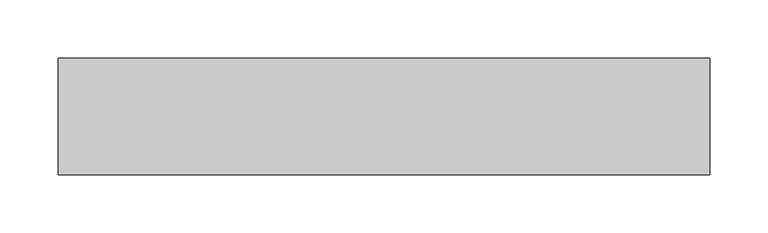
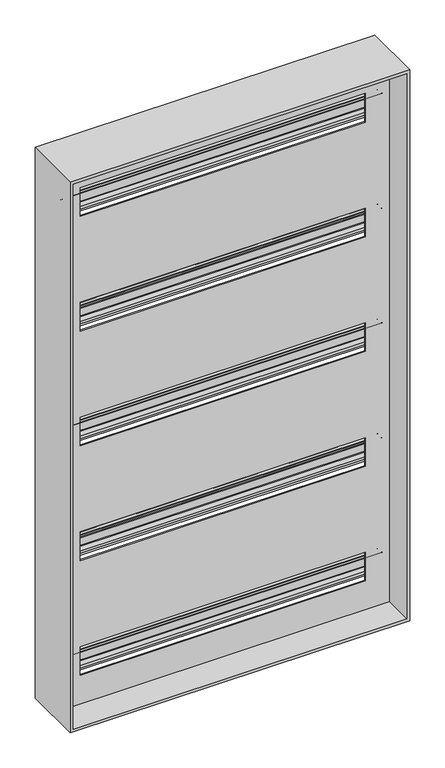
"""IFC4 building model written with IfcOpenShell, lengths in millimetres: electric distribution board geometry, DKC_Панель для модульного оборудования : DKC_Панель для модульного оборудования."""

from ifc_helpers import new_model, si_unit, frame, origin, place, context, project, spatial, polyline, circle_curve, faceted_brep, source, transform, mapped, element, save
from ifc_brep_helpers import plane_surface, cylinder_surface, revolved_surface, advanced_brep


def electric_distribution_board_fee3de22(model_context):
    return source(origin(), model_context, "Body", "SolidModel", [
        advanced_brep(
        [(-265.0, -86.5000007, 1912.0000024), (-265.0, -96.4963965, 1912.0000024), (-265.0, -98.9999996, 1914.4999998), (-265.0, -99.0, 1917.4999982), (-265.0, -97.5000007, 1917.4999982), (-265.0, -97.5000007, 1914.5), (-265.0, -96.4999987, 1913.4999998), (-265.0, -86.4969876, 1913.499998), (-265.0, -83.9999996, 1910.9999998), (-265.0, -83.9999996, 1888.9999994), (-265.0, -86.5039195, 1886.5000024), (-265.0, -96.4999996, 1886.5000024), (-265.0, -97.4999996, 1885.5000004), (-265.0, -97.5000007, 1882.5000018), (-265.0, -99.0, 1882.5000018), (-265.0, -99.0, 1885.4999994), (-265.0, -96.4974135, 1887.999998), (-265.0, -86.4999996, 1887.999998), (-265.0, -85.4999996, 1889.0000001), (-265.0, -85.4999987, 1910.9999998), (265.0, -86.5000007, 1911.9999998), (265.0, -85.4999996, 1910.9999998), (265.0, -85.4999987, 1889.0000001), (265.0, -86.4999996, 1887.9999994), (265.0, -96.4974135, 1887.999998), (265.0, -98.9999996, 1885.4999994), (265.0, -99.0, 1882.5000018), (265.0, -97.5000007, 1882.5000018), (265.0, -97.5000007, 1885.5000004), (265.0, -96.4999996, 1886.4999994), (265.0, -86.5039195, 1886.5000024), (265.0, -83.9999996, 1888.9999994), (265.0, -83.9999996, 1910.9999998), (265.0, -86.4969876, 1913.499998), (265.0, -96.4999987, 1913.499998), (265.0, -97.4999996, 1914.4999998), (265.0, -97.5000007, 1917.4999982), (265.0, -99.0, 1917.4999982), (265.0, -99.0, 1914.4999998), (265.0, -96.4963965, 1912.0000024)],
        [
            (0, 1),
            (1, 2, circle_curve(frame((-265.0, -96.4999996, 1914.4999998), z_axis=(-1.0, 0.0, 0.0), x_axis=(0.0, 0.0, -1.0)), 2.5)),
            (2, 3),
            (3, 4),
            (4, 5),
            (5, 6, circle_curve(frame((-265.0, -96.4999996, 1914.4999998), z_axis=(1.0, 0.0, 0.0), x_axis=(0.0, 0.0, -1.0)), 1.0)),
            (6, 7),
            (7, 8, circle_curve(frame((-265.0, -86.4999996, 1910.9999998), z_axis=(-1.0, 0.0, 0.0), x_axis=(0.0, 0.0, -1.0)), 2.5)),
            (8, 9),
            (9, 10, circle_curve(frame((-265.0, -86.4999996, 1888.9999994), z_axis=(-1.0, 0.0, 0.0), x_axis=(0.0, 0.0, -1.0)), 2.5)),
            (10, 11),
            (11, 12, circle_curve(frame((-265.0, -96.4999996, 1885.4999994), z_axis=(1.0, 0.0, 0.0), x_axis=(0.0, 0.0, -1.0)), 1.0)),
            (12, 13),
            (13, 14),
            (14, 15),
            (15, 16, circle_curve(frame((-265.0, -96.4999996, 1885.4999994), z_axis=(-1.0, 0.0, 0.0), x_axis=(0.0, 0.0, -1.0)), 2.5)),
            (16, 17),
            (17, 18, circle_curve(frame((-265.0, -86.4999996, 1888.9999994), z_axis=(1.0, 0.0, 0.0), x_axis=(0.0, 0.0, -1.0)), 1.0)),
            (18, 19),
            (19, 0, circle_curve(frame((-265.0, -86.4999996, 1910.9999998), z_axis=(1.0, 0.0, 0.0), x_axis=(0.0, 0.0, -1.0)), 1.0)),
            (20, 21, circle_curve(frame((265.0, -86.4999996, 1910.9999998), z_axis=(-1.0, 0.0, 0.0), x_axis=(0.0, 0.0, -1.0)), 1.0)),
            (21, 22),
            (22, 23, circle_curve(frame((265.0, -86.4999996, 1888.9999994), z_axis=(-1.0, 0.0, 0.0), x_axis=(0.0, 0.0, -1.0)), 1.0)),
            (23, 24),
            (24, 25, circle_curve(frame((265.0, -96.4999996, 1885.4999994), z_axis=(1.0, 0.0, 0.0), x_axis=(0.0, 0.0, -1.0)), 2.5)),
            (25, 26),
            (26, 27),
            (27, 28),
            (28, 29, circle_curve(frame((265.0, -96.4999996, 1885.4999994), z_axis=(-1.0, 0.0, 0.0), x_axis=(0.0, 0.0, -1.0)), 1.0)),
            (29, 30),
            (30, 31, circle_curve(frame((265.0, -86.4999996, 1888.9999994), z_axis=(1.0, 0.0, 0.0), x_axis=(0.0, 0.0, -1.0)), 2.5)),
            (31, 32),
            (32, 33, circle_curve(frame((265.0, -86.4999996, 1910.9999998), z_axis=(1.0, 0.0, 0.0), x_axis=(0.0, 0.0, -1.0)), 2.5)),
            (33, 34),
            (34, 35, circle_curve(frame((265.0, -96.4999996, 1914.4999998), z_axis=(-1.0, 0.0, 0.0), x_axis=(0.0, 0.0, -1.0)), 1.0)),
            (35, 36),
            (36, 37),
            (37, 38),
            (38, 39, circle_curve(frame((265.0, -96.4999996, 1914.4999998), z_axis=(1.0, 0.0, 0.0), x_axis=(0.0, 0.0, -1.0)), 2.5)),
            (39, 20),
            (0, 20),
            (39, 1),
            (38, 2),
            (37, 3),
            (36, 4),
            (35, 5),
            (34, 6),
            (33, 7),
            (32, 8),
            (31, 9),
            (30, 10),
            (29, 11),
            (28, 12),
            (27, 13),
            (26, 14),
            (25, 15),
            (24, 16),
            (23, 17),
            (22, 18),
            (21, 19),
        ],
        [
            plane_surface(frame((-265.0, -96.4963965, 1912.0000024), z_axis=(-1.0, 0.0, 0.0), x_axis=(0.0, -1.0, 0.0))),
            plane_surface(frame((265.0, -96.4963965, 1912.0000024), z_axis=(1.0, 0.0, 0.0), x_axis=(0.0, 1.0, 0.0))),
            plane_surface(frame((-265.0, -86.5000007, 1912.0000024), z_axis=(0.0, 0.0, -1.0), x_axis=(1.0, 0.0, 0.0))),
            cylinder_surface(frame((265.0, -96.4999996, 1914.4999998), z_axis=(-1.0, 0.0, 0.0), x_axis=(0.0, 0.0, -1.0)), 2.5),
            plane_surface(frame((-265.0, -99.0, 1914.4999998), z_axis=(0.0, -1.0, 0.0), x_axis=(1.0, 0.0, 0.0))),
            plane_surface(frame((-265.0, -99.0, 1917.4999982), z_axis=(0.0, 0.0, 1.0), x_axis=(1.0, 0.0, 0.0))),
            plane_surface(frame((-265.0, -97.5000007, 1917.4999982), z_axis=(0.0, 1.0, 0.0), x_axis=(1.0, 0.0, 0.0))),
            revolved_surface(polyline([(265.0, -96.4999996, 1913.4999998), (-265.0, -96.4999996, 1913.4999998)]), (265.0, -96.4999996, 1914.4999998), (1.0, 0.0, 0.0)),
            plane_surface(frame((-265.0, -96.4999987, 1913.499998), z_axis=(0.0, 0.0, 1.0), x_axis=(1.0, 0.0, 0.0))),
            cylinder_surface(frame((265.0, -86.4999996, 1910.9999998), z_axis=(-1.0, 0.0, 0.0), x_axis=(0.0, 0.0, -1.0)), 2.5),
            plane_surface(frame((-265.0, -83.9999996, 1910.9999998), z_axis=(0.0, 1.0, 0.0), x_axis=(1.0, 0.0, 0.0))),
            cylinder_surface(frame((265.0, -86.4999996, 1888.9999994), z_axis=(-1.0, 0.0, 0.0), x_axis=(0.0, 0.0, -1.0)), 2.5),
            plane_surface(frame((-265.0, -86.5039195, 1886.5000024), z_axis=(0.0, 0.0, -1.0), x_axis=(1.0, 0.0, 0.0))),
            revolved_surface(polyline([(265.0, -96.4999996, 1884.4999994), (-265.0, -96.4999996, 1884.4999994)]), (265.0, -96.4999996, 1885.4999994), (1.0, 0.0, 0.0)),
            plane_surface(frame((-265.0, -97.5000007, 1885.5000004), z_axis=(0.0, 1.0, 0.0), x_axis=(1.0, 0.0, 0.0))),
            plane_surface(frame((-265.0, -97.5000007, 1882.5000018), z_axis=(0.0, 0.0, -1.0), x_axis=(1.0, 0.0, 0.0))),
            plane_surface(frame((-265.0, -99.0, 1882.5000018), z_axis=(0.0, -1.0, 0.0), x_axis=(1.0, 0.0, 0.0))),
            cylinder_surface(frame((265.0, -96.4999996, 1885.4999994), z_axis=(-1.0, 0.0, 0.0), x_axis=(0.0, 0.0, -1.0)), 2.5),
            plane_surface(frame((-265.0, -96.4974135, 1887.999998), z_axis=(0.0, 0.0, 1.0), x_axis=(1.0, 0.0, 0.0))),
            revolved_surface(polyline([(265.0, -86.4999996, 1887.9999994), (-265.0, -86.4999996, 1887.9999994)]), (265.0, -86.4999996, 1888.9999994), (1.0, 0.0, 0.0)),
            plane_surface(frame((-265.0, -85.4999987, 1889.0000001), z_axis=(0.0, -1.0, 0.0), x_axis=(1.0, 0.0, 0.0))),
            revolved_surface(polyline([(265.0, -86.4999996, 1909.9999998), (-265.0, -86.4999996, 1909.9999998)]), (265.0, -86.4999996, 1910.9999998), (1.0, 0.0, 0.0)),
        ],
        [
            (0, [[1, 2, 3, 4, 5, 6, 7, 8, 9, 10, 11, 12, 13, 14, 15, 16, 17, 18, 19, 20]]),
            (1, [[21, 22, 23, 24, 25, 26, 27, 28, 29, 30, 31, 32, 33, 34, 35, 36, 37, 38, 39, 40]]),
            (2, [[-1, 41, -40, 42]]),
            (3, [[-2, -42, -39, 43]]),
            (4, [[-3, -43, -38, 44]]),
            (5, [[-4, -44, -37, 45]]),
            (6, [[-5, -45, -36, 46]]),
            (7, [[-6, -46, -35, 47]]),
            (8, [[-7, -47, -34, 48]]),
            (9, [[-8, -48, -33, 49]]),
            (10, [[-9, -49, -32, 50]]),
            (11, [[-10, -50, -31, 51]]),
            (12, [[-11, -51, -30, 52]]),
            (13, [[-12, -52, -29, 53]]),
            (14, [[-13, -53, -28, 54]]),
            (15, [[-14, -54, -27, 55]]),
            (16, [[-15, -55, -26, 56]]),
            (17, [[-16, -56, -25, 57]]),
            (18, [[-17, -57, -24, 58]]),
            (19, [[-18, -58, -23, 59]]),
            (20, [[-19, -59, -22, 60]]),
            (21, [[-20, -60, -21, -41]]),
        ],
    ),
        advanced_brep(
        [(-265.0, -86.5000007, 1712.0000024), (-265.0, -96.4963965, 1712.0000024), (-265.0, -98.9999996, 1714.4999998), (-265.0, -99.0, 1717.4999982), (-265.0, -97.5000007, 1717.4999982), (-265.0, -97.5000007, 1714.5), (-265.0, -96.4999987, 1713.4999998), (-265.0, -86.4969876, 1713.499998), (-265.0, -83.9999996, 1710.9999998), (-265.0, -83.9999996, 1688.9999994), (-265.0, -86.5039195, 1686.5000024), (-265.0, -96.4999996, 1686.5000024), (-265.0, -97.4999996, 1685.5000004), (-265.0, -97.5000007, 1682.5000018), (-265.0, -99.0, 1682.5000018), (-265.0, -99.0, 1685.4999994), (-265.0, -96.4974135, 1687.999998), (-265.0, -86.4999996, 1687.999998), (-265.0, -85.4999996, 1689.0000001), (-265.0, -85.4999987, 1710.9999998), (265.0, -86.5000007, 1711.9999998), (265.0, -85.4999996, 1710.9999998), (265.0, -85.4999987, 1689.0000001), (265.0, -86.4999996, 1687.9999994), (265.0, -96.4974135, 1687.999998), (265.0, -98.9999996, 1685.4999994), (265.0, -99.0, 1682.5000018), (265.0, -97.5000007, 1682.5000018), (265.0, -97.5000007, 1685.5000004), (265.0, -96.4999996, 1686.4999994), (265.0, -86.5039195, 1686.5000024), (265.0, -83.9999996, 1688.9999994), (265.0, -83.9999996, 1710.9999998), (265.0, -86.4969876, 1713.499998), (265.0, -96.4999987, 1713.499998), (265.0, -97.4999996, 1714.4999998), (265.0, -97.5000007, 1717.4999982), (265.0, -99.0, 1717.4999982), (265.0, -99.0, 1714.4999998), (265.0, -96.4963965, 1712.0000024)],
        [
            (0, 1),
            (1, 2, circle_curve(frame((-265.0, -96.4999996, 1714.4999998), z_axis=(-1.0, 0.0, 0.0), x_axis=(0.0, 0.0, -1.0)), 2.5)),
            (2, 3),
            (3, 4),
            (4, 5),
            (5, 6, circle_curve(frame((-265.0, -96.4999996, 1714.4999998), z_axis=(1.0, 0.0, 0.0), x_axis=(0.0, 0.0, -1.0)), 1.0)),
            (6, 7),
            (7, 8, circle_curve(frame((-265.0, -86.4999996, 1710.9999998), z_axis=(-1.0, 0.0, 0.0), x_axis=(0.0, 0.0, -1.0)), 2.5)),
            (8, 9),
            (9, 10, circle_curve(frame((-265.0, -86.4999996, 1688.9999994), z_axis=(-1.0, 0.0, 0.0), x_axis=(0.0, 0.0, -1.0)), 2.5)),
            (10, 11),
            (11, 12, circle_curve(frame((-265.0, -96.4999996, 1685.4999994), z_axis=(1.0, 0.0, 0.0), x_axis=(0.0, 0.0, -1.0)), 1.0)),
            (12, 13),
            (13, 14),
            (14, 15),
            (15, 16, circle_curve(frame((-265.0, -96.4999996, 1685.4999994), z_axis=(-1.0, 0.0, 0.0), x_axis=(0.0, 0.0, -1.0)), 2.5)),
            (16, 17),
            (17, 18, circle_curve(frame((-265.0, -86.4999996, 1688.9999994), z_axis=(1.0, 0.0, 0.0), x_axis=(0.0, 0.0, -1.0)), 1.0)),
            (18, 19),
            (19, 0, circle_curve(frame((-265.0, -86.4999996, 1710.9999998), z_axis=(1.0, 0.0, 0.0), x_axis=(0.0, 0.0, -1.0)), 1.0)),
            (20, 21, circle_curve(frame((265.0, -86.4999996, 1710.9999998), z_axis=(-1.0, 0.0, 0.0), x_axis=(0.0, 0.0, -1.0)), 1.0)),
            (21, 22),
            (22, 23, circle_curve(frame((265.0, -86.4999996, 1688.9999994), z_axis=(-1.0, 0.0, 0.0), x_axis=(0.0, 0.0, -1.0)), 1.0)),
            (23, 24),
            (24, 25, circle_curve(frame((265.0, -96.4999996, 1685.4999994), z_axis=(1.0, 0.0, 0.0), x_axis=(0.0, 0.0, -1.0)), 2.5)),
            (25, 26),
            (26, 27),
            (27, 28),
            (28, 29, circle_curve(frame((265.0, -96.4999996, 1685.4999994), z_axis=(-1.0, 0.0, 0.0), x_axis=(0.0, 0.0, -1.0)), 1.0)),
            (29, 30),
            (30, 31, circle_curve(frame((265.0, -86.4999996, 1688.9999994), z_axis=(1.0, 0.0, 0.0), x_axis=(0.0, 0.0, -1.0)), 2.5)),
            (31, 32),
            (32, 33, circle_curve(frame((265.0, -86.4999996, 1710.9999998), z_axis=(1.0, 0.0, 0.0), x_axis=(0.0, 0.0, -1.0)), 2.5)),
            (33, 34),
            (34, 35, circle_curve(frame((265.0, -96.4999996, 1714.4999998), z_axis=(-1.0, 0.0, 0.0), x_axis=(0.0, 0.0, -1.0)), 1.0)),
            (35, 36),
            (36, 37),
            (37, 38),
            (38, 39, circle_curve(frame((265.0, -96.4999996, 1714.4999998), z_axis=(1.0, 0.0, 0.0), x_axis=(0.0, 0.0, -1.0)), 2.5)),
            (39, 20),
            (0, 20),
            (39, 1),
            (38, 2),
            (37, 3),
            (36, 4),
            (35, 5),
            (34, 6),
            (33, 7),
            (32, 8),
            (31, 9),
            (30, 10),
            (29, 11),
            (28, 12),
            (27, 13),
            (26, 14),
            (25, 15),
            (24, 16),
            (23, 17),
            (22, 18),
            (21, 19),
        ],
        [
            plane_surface(frame((-265.0, -96.4963965, 1712.0000024), z_axis=(-1.0, 0.0, 0.0), x_axis=(0.0, -1.0, 0.0))),
            plane_surface(frame((265.0, -96.4963965, 1712.0000024), z_axis=(1.0, 0.0, 0.0), x_axis=(0.0, 1.0, 0.0))),
            plane_surface(frame((-265.0, -86.5000007, 1712.0000024), z_axis=(0.0, 0.0, -1.0), x_axis=(1.0, 0.0, 0.0))),
            cylinder_surface(frame((265.0, -96.4999996, 1714.4999998), z_axis=(-1.0, 0.0, 0.0), x_axis=(0.0, 0.0, -1.0)), 2.5),
            plane_surface(frame((-265.0, -99.0, 1714.4999998), z_axis=(0.0, -1.0, 0.0), x_axis=(1.0, 0.0, 0.0))),
            plane_surface(frame((-265.0, -99.0, 1717.4999982), z_axis=(0.0, 0.0, 1.0), x_axis=(1.0, 0.0, 0.0))),
            plane_surface(frame((-265.0, -97.5000007, 1717.4999982), z_axis=(0.0, 1.0, 0.0), x_axis=(1.0, 0.0, 0.0))),
            revolved_surface(polyline([(265.0, -96.4999996, 1713.4999998), (-265.0, -96.4999996, 1713.4999998)]), (265.0, -96.4999996, 1714.4999998), (1.0, 0.0, 0.0)),
            plane_surface(frame((-265.0, -96.4999987, 1713.499998), z_axis=(0.0, 0.0, 1.0), x_axis=(1.0, 0.0, 0.0))),
            cylinder_surface(frame((265.0, -86.4999996, 1710.9999998), z_axis=(-1.0, 0.0, 0.0), x_axis=(0.0, 0.0, -1.0)), 2.5),
            plane_surface(frame((-265.0, -83.9999996, 1710.9999998), z_axis=(0.0, 1.0, 0.0), x_axis=(1.0, 0.0, 0.0))),
            cylinder_surface(frame((265.0, -86.4999996, 1688.9999994), z_axis=(-1.0, 0.0, 0.0), x_axis=(0.0, 0.0, -1.0)), 2.5),
            plane_surface(frame((-265.0, -86.5039195, 1686.5000024), z_axis=(0.0, 0.0, -1.0), x_axis=(1.0, 0.0, 0.0))),
            revolved_surface(polyline([(265.0, -96.4999996, 1684.4999994), (-265.0, -96.4999996, 1684.4999994)]), (265.0, -96.4999996, 1685.4999994), (1.0, 0.0, 0.0)),
            plane_surface(frame((-265.0, -97.5000007, 1685.5000004), z_axis=(0.0, 1.0, 0.0), x_axis=(1.0, 0.0, 0.0))),
            plane_surface(frame((-265.0, -97.5000007, 1682.5000018), z_axis=(0.0, 0.0, -1.0), x_axis=(1.0, 0.0, 0.0))),
            plane_surface(frame((-265.0, -99.0, 1682.5000018), z_axis=(0.0, -1.0, 0.0), x_axis=(1.0, 0.0, 0.0))),
            cylinder_surface(frame((265.0, -96.4999996, 1685.4999994), z_axis=(-1.0, 0.0, 0.0), x_axis=(0.0, 0.0, -1.0)), 2.5),
            plane_surface(frame((-265.0, -96.4974135, 1687.999998), z_axis=(0.0, 0.0, 1.0), x_axis=(1.0, 0.0, 0.0))),
            revolved_surface(polyline([(265.0, -86.4999996, 1687.9999994), (-265.0, -86.4999996, 1687.9999994)]), (265.0, -86.4999996, 1688.9999994), (1.0, 0.0, 0.0)),
            plane_surface(frame((-265.0, -85.4999987, 1689.0000001), z_axis=(0.0, -1.0, 0.0), x_axis=(1.0, 0.0, 0.0))),
            revolved_surface(polyline([(265.0, -86.4999996, 1709.9999998), (-265.0, -86.4999996, 1709.9999998)]), (265.0, -86.4999996, 1710.9999998), (1.0, 0.0, 0.0)),
        ],
        [
            (0, [[1, 2, 3, 4, 5, 6, 7, 8, 9, 10, 11, 12, 13, 14, 15, 16, 17, 18, 19, 20]]),
            (1, [[21, 22, 23, 24, 25, 26, 27, 28, 29, 30, 31, 32, 33, 34, 35, 36, 37, 38, 39, 40]]),
            (2, [[-1, 41, -40, 42]]),
            (3, [[-2, -42, -39, 43]]),
            (4, [[-3, -43, -38, 44]]),
            (5, [[-4, -44, -37, 45]]),
            (6, [[-5, -45, -36, 46]]),
            (7, [[-6, -46, -35, 47]]),
            (8, [[-7, -47, -34, 48]]),
            (9, [[-8, -48, -33, 49]]),
            (10, [[-9, -49, -32, 50]]),
            (11, [[-10, -50, -31, 51]]),
            (12, [[-11, -51, -30, 52]]),
            (13, [[-12, -52, -29, 53]]),
            (14, [[-13, -53, -28, 54]]),
            (15, [[-14, -54, -27, 55]]),
            (16, [[-15, -55, -26, 56]]),
            (17, [[-16, -56, -25, 57]]),
            (18, [[-17, -57, -24, 58]]),
            (19, [[-18, -58, -23, 59]]),
            (20, [[-19, -59, -22, 60]]),
            (21, [[-20, -60, -21, -41]]),
        ],
    ),
        advanced_brep(
        [(-265.0, -86.5000007, 1512.0000024), (-265.0, -96.4963965, 1512.0000024), (-265.0, -98.9999996, 1514.4999998), (-265.0, -99.0, 1517.4999982), (-265.0, -97.5000007, 1517.4999982), (-265.0, -97.5000007, 1514.5), (-265.0, -96.4999987, 1513.4999998), (-265.0, -86.4969876, 1513.499998), (-265.0, -83.9999996, 1510.9999998), (-265.0, -83.9999996, 1488.9999994), (-265.0, -86.5039195, 1486.5000024), (-265.0, -96.4999996, 1486.5000024), (-265.0, -97.4999996, 1485.5000004), (-265.0, -97.5000007, 1482.5000018), (-265.0, -99.0, 1482.5000018), (-265.0, -99.0, 1485.4999994), (-265.0, -96.4974135, 1487.999998), (-265.0, -86.4999996, 1487.999998), (-265.0, -85.4999996, 1489.0000001), (-265.0, -85.4999987, 1510.9999998), (265.0, -86.5000007, 1511.9999998), (265.0, -85.4999996, 1510.9999998), (265.0, -85.4999987, 1489.0000001), (265.0, -86.4999996, 1487.9999994), (265.0, -96.4974135, 1487.999998), (265.0, -98.9999996, 1485.4999994), (265.0, -99.0, 1482.5000018), (265.0, -97.5000007, 1482.5000018), (265.0, -97.5000007, 1485.5000004), (265.0, -96.4999996, 1486.4999994), (265.0, -86.5039195, 1486.5000024), (265.0, -83.9999996, 1488.9999994), (265.0, -83.9999996, 1510.9999998), (265.0, -86.4969876, 1513.499998), (265.0, -96.4999987, 1513.499998), (265.0, -97.4999996, 1514.4999998), (265.0, -97.5000007, 1517.4999982), (265.0, -99.0, 1517.4999982), (265.0, -99.0, 1514.4999998), (265.0, -96.4963965, 1512.0000024)],
        [
            (0, 1),
            (1, 2, circle_curve(frame((-265.0, -96.4999996, 1514.4999998), z_axis=(-1.0, 0.0, 0.0), x_axis=(0.0, 0.0, -1.0)), 2.5)),
            (2, 3),
            (3, 4),
            (4, 5),
            (5, 6, circle_curve(frame((-265.0, -96.4999996, 1514.4999998), z_axis=(1.0, 0.0, 0.0), x_axis=(0.0, 0.0, -1.0)), 1.0)),
            (6, 7),
            (7, 8, circle_curve(frame((-265.0, -86.4999996, 1510.9999998), z_axis=(-1.0, 0.0, 0.0), x_axis=(0.0, 0.0, -1.0)), 2.5)),
            (8, 9),
            (9, 10, circle_curve(frame((-265.0, -86.4999996, 1488.9999994), z_axis=(-1.0, 0.0, 0.0), x_axis=(0.0, 0.0, -1.0)), 2.5)),
            (10, 11),
            (11, 12, circle_curve(frame((-265.0, -96.4999996, 1485.4999994), z_axis=(1.0, 0.0, 0.0), x_axis=(0.0, 0.0, -1.0)), 1.0)),
            (12, 13),
            (13, 14),
            (14, 15),
            (15, 16, circle_curve(frame((-265.0, -96.4999996, 1485.4999994), z_axis=(-1.0, 0.0, 0.0), x_axis=(0.0, 0.0, -1.0)), 2.5)),
            (16, 17),
            (17, 18, circle_curve(frame((-265.0, -86.4999996, 1488.9999994), z_axis=(1.0, 0.0, 0.0), x_axis=(0.0, 0.0, -1.0)), 1.0)),
            (18, 19),
            (19, 0, circle_curve(frame((-265.0, -86.4999996, 1510.9999998), z_axis=(1.0, 0.0, 0.0), x_axis=(0.0, 0.0, -1.0)), 1.0)),
            (20, 21, circle_curve(frame((265.0, -86.4999996, 1510.9999998), z_axis=(-1.0, 0.0, 0.0), x_axis=(0.0, 0.0, -1.0)), 1.0)),
            (21, 22),
            (22, 23, circle_curve(frame((265.0, -86.4999996, 1488.9999994), z_axis=(-1.0, 0.0, 0.0), x_axis=(0.0, 0.0, -1.0)), 1.0)),
            (23, 24),
            (24, 25, circle_curve(frame((265.0, -96.4999996, 1485.4999994), z_axis=(1.0, 0.0, 0.0), x_axis=(0.0, 0.0, -1.0)), 2.5)),
            (25, 26),
            (26, 27),
            (27, 28),
            (28, 29, circle_curve(frame((265.0, -96.4999996, 1485.4999994), z_axis=(-1.0, 0.0, 0.0), x_axis=(0.0, 0.0, -1.0)), 1.0)),
            (29, 30),
            (30, 31, circle_curve(frame((265.0, -86.4999996, 1488.9999994), z_axis=(1.0, 0.0, 0.0), x_axis=(0.0, 0.0, -1.0)), 2.5)),
            (31, 32),
            (32, 33, circle_curve(frame((265.0, -86.4999996, 1510.9999998), z_axis=(1.0, 0.0, 0.0), x_axis=(0.0, 0.0, -1.0)), 2.5)),
            (33, 34),
            (34, 35, circle_curve(frame((265.0, -96.4999996, 1514.4999998), z_axis=(-1.0, 0.0, 0.0), x_axis=(0.0, 0.0, -1.0)), 1.0)),
            (35, 36),
            (36, 37),
            (37, 38),
            (38, 39, circle_curve(frame((265.0, -96.4999996, 1514.4999998), z_axis=(1.0, 0.0, 0.0), x_axis=(0.0, 0.0, -1.0)), 2.5)),
            (39, 20),
            (0, 20),
            (39, 1),
            (38, 2),
            (37, 3),
            (36, 4),
            (35, 5),
            (34, 6),
            (33, 7),
            (32, 8),
            (31, 9),
            (30, 10),
            (29, 11),
            (28, 12),
            (27, 13),
            (26, 14),
            (25, 15),
            (24, 16),
            (23, 17),
            (22, 18),
            (21, 19),
        ],
        [
            plane_surface(frame((-265.0, -96.4963965, 1512.0000024), z_axis=(-1.0, 0.0, 0.0), x_axis=(0.0, -1.0, 0.0))),
            plane_surface(frame((265.0, -96.4963965, 1512.0000024), z_axis=(1.0, 0.0, 0.0), x_axis=(0.0, 1.0, 0.0))),
            plane_surface(frame((-265.0, -86.5000007, 1512.0000024), z_axis=(0.0, 0.0, -1.0), x_axis=(1.0, 0.0, 0.0))),
            cylinder_surface(frame((265.0, -96.4999996, 1514.4999998), z_axis=(-1.0, 0.0, 0.0), x_axis=(0.0, 0.0, -1.0)), 2.5),
            plane_surface(frame((-265.0, -99.0, 1514.4999998), z_axis=(0.0, -1.0, 0.0), x_axis=(1.0, 0.0, 0.0))),
            plane_surface(frame((-265.0, -99.0, 1517.4999982), z_axis=(0.0, 0.0, 1.0), x_axis=(1.0, 0.0, 0.0))),
            plane_surface(frame((-265.0, -97.5000007, 1517.4999982), z_axis=(0.0, 1.0, 0.0), x_axis=(1.0, 0.0, 0.0))),
            revolved_surface(polyline([(265.0, -96.4999996, 1513.4999998), (-265.0, -96.4999996, 1513.4999998)]), (265.0, -96.4999996, 1514.4999998), (1.0, 0.0, 0.0)),
            plane_surface(frame((-265.0, -96.4999987, 1513.499998), z_axis=(0.0, 0.0, 1.0), x_axis=(1.0, 0.0, 0.0))),
            cylinder_surface(frame((265.0, -86.4999996, 1510.9999998), z_axis=(-1.0, 0.0, 0.0), x_axis=(0.0, 0.0, -1.0)), 2.5),
            plane_surface(frame((-265.0, -83.9999996, 1510.9999998), z_axis=(0.0, 1.0, 0.0), x_axis=(1.0, 0.0, 0.0))),
            cylinder_surface(frame((265.0, -86.4999996, 1488.9999994), z_axis=(-1.0, 0.0, 0.0), x_axis=(0.0, 0.0, -1.0)), 2.5),
            plane_surface(frame((-265.0, -86.5039195, 1486.5000024), z_axis=(0.0, 0.0, -1.0), x_axis=(1.0, 0.0, 0.0))),
            revolved_surface(polyline([(265.0, -96.4999996, 1484.4999994), (-265.0, -96.4999996, 1484.4999994)]), (265.0, -96.4999996, 1485.4999994), (1.0, 0.0, 0.0)),
            plane_surface(frame((-265.0, -97.5000007, 1485.5000004), z_axis=(0.0, 1.0, 0.0), x_axis=(1.0, 0.0, 0.0))),
            plane_surface(frame((-265.0, -97.5000007, 1482.5000018), z_axis=(0.0, 0.0, -1.0), x_axis=(1.0, 0.0, 0.0))),
            plane_surface(frame((-265.0, -99.0, 1482.5000018), z_axis=(0.0, -1.0, 0.0), x_axis=(1.0, 0.0, 0.0))),
            cylinder_surface(frame((265.0, -96.4999996, 1485.4999994), z_axis=(-1.0, 0.0, 0.0), x_axis=(0.0, 0.0, -1.0)), 2.5),
            plane_surface(frame((-265.0, -96.4974135, 1487.999998), z_axis=(0.0, 0.0, 1.0), x_axis=(1.0, 0.0, 0.0))),
            revolved_surface(polyline([(265.0, -86.4999996, 1487.9999994), (-265.0, -86.4999996, 1487.9999994)]), (265.0, -86.4999996, 1488.9999994), (1.0, 0.0, 0.0)),
            plane_surface(frame((-265.0, -85.4999987, 1489.0000001), z_axis=(0.0, -1.0, 0.0), x_axis=(1.0, 0.0, 0.0))),
            revolved_surface(polyline([(265.0, -86.4999996, 1509.9999998), (-265.0, -86.4999996, 1509.9999998)]), (265.0, -86.4999996, 1510.9999998), (1.0, 0.0, 0.0)),
        ],
        [
            (0, [[1, 2, 3, 4, 5, 6, 7, 8, 9, 10, 11, 12, 13, 14, 15, 16, 17, 18, 19, 20]]),
            (1, [[21, 22, 23, 24, 25, 26, 27, 28, 29, 30, 31, 32, 33, 34, 35, 36, 37, 38, 39, 40]]),
            (2, [[-1, 41, -40, 42]]),
            (3, [[-2, -42, -39, 43]]),
            (4, [[-3, -43, -38, 44]]),
            (5, [[-4, -44, -37, 45]]),
            (6, [[-5, -45, -36, 46]]),
            (7, [[-6, -46, -35, 47]]),
            (8, [[-7, -47, -34, 48]]),
            (9, [[-8, -48, -33, 49]]),
            (10, [[-9, -49, -32, 50]]),
            (11, [[-10, -50, -31, 51]]),
            (12, [[-11, -51, -30, 52]]),
            (13, [[-12, -52, -29, 53]]),
            (14, [[-13, -53, -28, 54]]),
            (15, [[-14, -54, -27, 55]]),
            (16, [[-15, -55, -26, 56]]),
            (17, [[-16, -56, -25, 57]]),
            (18, [[-17, -57, -24, 58]]),
            (19, [[-18, -58, -23, 59]]),
            (20, [[-19, -59, -22, 60]]),
            (21, [[-20, -60, -21, -41]]),
        ],
    ),
        advanced_brep(
        [(-265.0, -86.5000007, 1312.0000024), (-265.0, -96.4963965, 1312.0000024), (-265.0, -98.9999996, 1314.4999998), (-265.0, -99.0, 1317.4999982), (-265.0, -97.5000007, 1317.4999982), (-265.0, -97.5000007, 1314.5), (-265.0, -96.4999987, 1313.4999998), (-265.0, -86.4969876, 1313.499998), (-265.0, -83.9999996, 1310.9999998), (-265.0, -83.9999996, 1288.9999994), (-265.0, -86.5039195, 1286.5000024), (-265.0, -96.4999996, 1286.5000024), (-265.0, -97.4999996, 1285.5000004), (-265.0, -97.5000007, 1282.5000018), (-265.0, -99.0, 1282.5000018), (-265.0, -99.0, 1285.4999994), (-265.0, -96.4974135, 1287.999998), (-265.0, -86.4999996, 1287.999998), (-265.0, -85.4999996, 1289.0000001), (-265.0, -85.4999987, 1310.9999998), (265.0, -86.5000007, 1311.9999998), (265.0, -85.4999996, 1310.9999998), (265.0, -85.4999987, 1289.0000001), (265.0, -86.4999996, 1287.9999994), (265.0, -96.4974135, 1287.999998), (265.0, -98.9999996, 1285.4999994), (265.0, -99.0, 1282.5000018), (265.0, -97.5000007, 1282.5000018), (265.0, -97.5000007, 1285.5000004), (265.0, -96.4999996, 1286.4999994), (265.0, -86.5039195, 1286.5000024), (265.0, -83.9999996, 1288.9999994), (265.0, -83.9999996, 1310.9999998), (265.0, -86.4969876, 1313.499998), (265.0, -96.4999987, 1313.499998), (265.0, -97.4999996, 1314.4999998), (265.0, -97.5000007, 1317.4999982), (265.0, -99.0, 1317.4999982), (265.0, -99.0, 1314.4999998), (265.0, -96.4963965, 1312.0000024)],
        [
            (0, 1),
            (1, 2, circle_curve(frame((-265.0, -96.4999996, 1314.4999998), z_axis=(-1.0, 0.0, 0.0), x_axis=(0.0, 0.0, -1.0)), 2.5)),
            (2, 3),
            (3, 4),
            (4, 5),
            (5, 6, circle_curve(frame((-265.0, -96.4999996, 1314.4999998), z_axis=(1.0, 0.0, 0.0), x_axis=(0.0, 0.0, -1.0)), 1.0)),
            (6, 7),
            (7, 8, circle_curve(frame((-265.0, -86.4999996, 1310.9999998), z_axis=(-1.0, 0.0, 0.0), x_axis=(0.0, 0.0, -1.0)), 2.5)),
            (8, 9),
            (9, 10, circle_curve(frame((-265.0, -86.4999996, 1288.9999994), z_axis=(-1.0, 0.0, 0.0), x_axis=(0.0, 0.0, -1.0)), 2.5)),
            (10, 11),
            (11, 12, circle_curve(frame((-265.0, -96.4999996, 1285.4999994), z_axis=(1.0, 0.0, 0.0), x_axis=(0.0, 0.0, -1.0)), 1.0)),
            (12, 13),
            (13, 14),
            (14, 15),
            (15, 16, circle_curve(frame((-265.0, -96.4999996, 1285.4999994), z_axis=(-1.0, 0.0, 0.0), x_axis=(0.0, 0.0, -1.0)), 2.5)),
            (16, 17),
            (17, 18, circle_curve(frame((-265.0, -86.4999996, 1288.9999994), z_axis=(1.0, 0.0, 0.0), x_axis=(0.0, 0.0, -1.0)), 1.0)),
            (18, 19),
            (19, 0, circle_curve(frame((-265.0, -86.4999996, 1310.9999998), z_axis=(1.0, 0.0, 0.0), x_axis=(0.0, 0.0, -1.0)), 1.0)),
            (20, 21, circle_curve(frame((265.0, -86.4999996, 1310.9999998), z_axis=(-1.0, 0.0, 0.0), x_axis=(0.0, 0.0, -1.0)), 1.0)),
            (21, 22),
            (22, 23, circle_curve(frame((265.0, -86.4999996, 1288.9999994), z_axis=(-1.0, 0.0, 0.0), x_axis=(0.0, 0.0, -1.0)), 1.0)),
            (23, 24),
            (24, 25, circle_curve(frame((265.0, -96.4999996, 1285.4999994), z_axis=(1.0, 0.0, 0.0), x_axis=(0.0, 0.0, -1.0)), 2.5)),
            (25, 26),
            (26, 27),
            (27, 28),
            (28, 29, circle_curve(frame((265.0, -96.4999996, 1285.4999994), z_axis=(-1.0, 0.0, 0.0), x_axis=(0.0, 0.0, -1.0)), 1.0)),
            (29, 30),
            (30, 31, circle_curve(frame((265.0, -86.4999996, 1288.9999994), z_axis=(1.0, 0.0, 0.0), x_axis=(0.0, 0.0, -1.0)), 2.5)),
            (31, 32),
            (32, 33, circle_curve(frame((265.0, -86.4999996, 1310.9999998), z_axis=(1.0, 0.0, 0.0), x_axis=(0.0, 0.0, -1.0)), 2.5)),
            (33, 34),
            (34, 35, circle_curve(frame((265.0, -96.4999996, 1314.4999998), z_axis=(-1.0, 0.0, 0.0), x_axis=(0.0, 0.0, -1.0)), 1.0)),
            (35, 36),
            (36, 37),
            (37, 38),
            (38, 39, circle_curve(frame((265.0, -96.4999996, 1314.4999998), z_axis=(1.0, 0.0, 0.0), x_axis=(0.0, 0.0, -1.0)), 2.5)),
            (39, 20),
            (0, 20),
            (39, 1),
            (38, 2),
            (37, 3),
            (36, 4),
            (35, 5),
            (34, 6),
            (33, 7),
            (32, 8),
            (31, 9),
            (30, 10),
            (29, 11),
            (28, 12),
            (27, 13),
            (26, 14),
            (25, 15),
            (24, 16),
            (23, 17),
            (22, 18),
            (21, 19),
        ],
        [
            plane_surface(frame((-265.0, -96.4963965, 1312.0000024), z_axis=(-1.0, 0.0, 0.0), x_axis=(0.0, -1.0, 0.0))),
            plane_surface(frame((265.0, -96.4963965, 1312.0000024), z_axis=(1.0, 0.0, 0.0), x_axis=(0.0, 1.0, 0.0))),
            plane_surface(frame((-265.0, -86.5000007, 1312.0000024), z_axis=(0.0, 0.0, -1.0), x_axis=(1.0, 0.0, 0.0))),
            cylinder_surface(frame((265.0, -96.4999996, 1314.4999998), z_axis=(-1.0, 0.0, 0.0), x_axis=(0.0, 0.0, -1.0)), 2.5),
            plane_surface(frame((-265.0, -99.0, 1314.4999998), z_axis=(0.0, -1.0, 0.0), x_axis=(1.0, 0.0, 0.0))),
            plane_surface(frame((-265.0, -99.0, 1317.4999982), z_axis=(0.0, 0.0, 1.0), x_axis=(1.0, 0.0, 0.0))),
            plane_surface(frame((-265.0, -97.5000007, 1317.4999982), z_axis=(0.0, 1.0, 0.0), x_axis=(1.0, 0.0, 0.0))),
            revolved_surface(polyline([(265.0, -96.4999996, 1313.4999998), (-265.0, -96.4999996, 1313.4999998)]), (265.0, -96.4999996, 1314.4999998), (1.0, 0.0, 0.0)),
            plane_surface(frame((-265.0, -96.4999987, 1313.499998), z_axis=(0.0, 0.0, 1.0), x_axis=(1.0, 0.0, 0.0))),
            cylinder_surface(frame((265.0, -86.4999996, 1310.9999998), z_axis=(-1.0, 0.0, 0.0), x_axis=(0.0, 0.0, -1.0)), 2.5),
            plane_surface(frame((-265.0, -83.9999996, 1310.9999998), z_axis=(0.0, 1.0, 0.0), x_axis=(1.0, 0.0, 0.0))),
            cylinder_surface(frame((265.0, -86.4999996, 1288.9999994), z_axis=(-1.0, 0.0, 0.0), x_axis=(0.0, 0.0, -1.0)), 2.5),
            plane_surface(frame((-265.0, -86.5039195, 1286.5000024), z_axis=(0.0, 0.0, -1.0), x_axis=(1.0, 0.0, 0.0))),
            revolved_surface(polyline([(265.0, -96.4999996, 1284.4999994), (-265.0, -96.4999996, 1284.4999994)]), (265.0, -96.4999996, 1285.4999994), (1.0, 0.0, 0.0)),
            plane_surface(frame((-265.0, -97.5000007, 1285.5000004), z_axis=(0.0, 1.0, 0.0), x_axis=(1.0, 0.0, 0.0))),
            plane_surface(frame((-265.0, -97.5000007, 1282.5000018), z_axis=(0.0, 0.0, -1.0), x_axis=(1.0, 0.0, 0.0))),
            plane_surface(frame((-265.0, -99.0, 1282.5000018), z_axis=(0.0, -1.0, 0.0), x_axis=(1.0, 0.0, 0.0))),
            cylinder_surface(frame((265.0, -96.4999996, 1285.4999994), z_axis=(-1.0, 0.0, 0.0), x_axis=(0.0, 0.0, -1.0)), 2.5),
            plane_surface(frame((-265.0, -96.4974135, 1287.999998), z_axis=(0.0, 0.0, 1.0), x_axis=(1.0, 0.0, 0.0))),
            revolved_surface(polyline([(265.0, -86.4999996, 1287.9999994), (-265.0, -86.4999996, 1287.9999994)]), (265.0, -86.4999996, 1288.9999994), (1.0, 0.0, 0.0)),
            plane_surface(frame((-265.0, -85.4999987, 1289.0000001), z_axis=(0.0, -1.0, 0.0), x_axis=(1.0, 0.0, 0.0))),
            revolved_surface(polyline([(265.0, -86.4999996, 1309.9999998), (-265.0, -86.4999996, 1309.9999998)]), (265.0, -86.4999996, 1310.9999998), (1.0, 0.0, 0.0)),
        ],
        [
            (0, [[1, 2, 3, 4, 5, 6, 7, 8, 9, 10, 11, 12, 13, 14, 15, 16, 17, 18, 19, 20]]),
            (1, [[21, 22, 23, 24, 25, 26, 27, 28, 29, 30, 31, 32, 33, 34, 35, 36, 37, 38, 39, 40]]),
            (2, [[-1, 41, -40, 42]]),
            (3, [[-2, -42, -39, 43]]),
            (4, [[-3, -43, -38, 44]]),
            (5, [[-4, -44, -37, 45]]),
            (6, [[-5, -45, -36, 46]]),
            (7, [[-6, -46, -35, 47]]),
            (8, [[-7, -47, -34, 48]]),
            (9, [[-8, -48, -33, 49]]),
            (10, [[-9, -49, -32, 50]]),
            (11, [[-10, -50, -31, 51]]),
            (12, [[-11, -51, -30, 52]]),
            (13, [[-12, -52, -29, 53]]),
            (14, [[-13, -53, -28, 54]]),
            (15, [[-14, -54, -27, 55]]),
            (16, [[-15, -55, -26, 56]]),
            (17, [[-16, -56, -25, 57]]),
            (18, [[-17, -57, -24, 58]]),
            (19, [[-18, -58, -23, 59]]),
            (20, [[-19, -59, -22, 60]]),
            (21, [[-20, -60, -21, -41]]),
        ],
    ),
        advanced_brep(
        [(-265.0, -86.5000007, 1112.0000024), (-265.0, -96.4963965, 1112.0000024), (-265.0, -98.9999996, 1114.4999998), (-265.0, -99.0, 1117.4999982), (-265.0, -97.5000007, 1117.4999982), (-265.0, -97.5000007, 1114.5), (-265.0, -96.4999987, 1113.4999998), (-265.0, -86.4969876, 1113.499998), (-265.0, -83.9999996, 1110.9999998), (-265.0, -83.9999996, 1088.9999994), (-265.0, -86.5039195, 1086.5000024), (-265.0, -96.4999996, 1086.5000024), (-265.0, -97.4999996, 1085.5000004), (-265.0, -97.5000007, 1082.5000018), (-265.0, -99.0, 1082.5000018), (-265.0, -99.0, 1085.4999994), (-265.0, -96.4974135, 1087.999998), (-265.0, -86.4999996, 1087.999998), (-265.0, -85.4999996, 1089.0000001), (-265.0, -85.4999987, 1110.9999998), (265.0, -86.5000007, 1111.9999998), (265.0, -85.4999996, 1110.9999998), (265.0, -85.4999987, 1089.0000001), (265.0, -86.4999996, 1087.9999994), (265.0, -96.4974135, 1087.999998), (265.0, -98.9999996, 1085.4999994), (265.0, -99.0, 1082.5000018), (265.0, -97.5000007, 1082.5000018), (265.0, -97.5000007, 1085.5000004), (265.0, -96.4999996, 1086.4999994), (265.0, -86.5039195, 1086.5000024), (265.0, -83.9999996, 1088.9999994), (265.0, -83.9999996, 1110.9999998), (265.0, -86.4969876, 1113.499998), (265.0, -96.4999987, 1113.499998), (265.0, -97.4999996, 1114.4999998), (265.0, -97.5000007, 1117.4999982), (265.0, -99.0, 1117.4999982), (265.0, -99.0, 1114.4999998), (265.0, -96.4963965, 1112.0000024)],
        [
            (0, 1),
            (1, 2, circle_curve(frame((-265.0, -96.4999996, 1114.4999998), z_axis=(-1.0, 0.0, 0.0), x_axis=(0.0, 0.0, -1.0)), 2.5)),
            (2, 3),
            (3, 4),
            (4, 5),
            (5, 6, circle_curve(frame((-265.0, -96.4999996, 1114.4999998), z_axis=(1.0, 0.0, 0.0), x_axis=(0.0, 0.0, -1.0)), 1.0)),
            (6, 7),
            (7, 8, circle_curve(frame((-265.0, -86.4999996, 1110.9999998), z_axis=(-1.0, 0.0, 0.0), x_axis=(0.0, 0.0, -1.0)), 2.5)),
            (8, 9),
            (9, 10, circle_curve(frame((-265.0, -86.4999996, 1088.9999994), z_axis=(-1.0, 0.0, 0.0), x_axis=(0.0, 0.0, -1.0)), 2.5)),
            (10, 11),
            (11, 12, circle_curve(frame((-265.0, -96.4999996, 1085.4999994), z_axis=(1.0, 0.0, 0.0), x_axis=(0.0, 0.0, -1.0)), 1.0)),
            (12, 13),
            (13, 14),
            (14, 15),
            (15, 16, circle_curve(frame((-265.0, -96.4999996, 1085.4999994), z_axis=(-1.0, 0.0, 0.0), x_axis=(0.0, 0.0, -1.0)), 2.5)),
            (16, 17),
            (17, 18, circle_curve(frame((-265.0, -86.4999996, 1088.9999994), z_axis=(1.0, 0.0, 0.0), x_axis=(0.0, 0.0, -1.0)), 1.0)),
            (18, 19),
            (19, 0, circle_curve(frame((-265.0, -86.4999996, 1110.9999998), z_axis=(1.0, 0.0, 0.0), x_axis=(0.0, 0.0, -1.0)), 1.0)),
            (20, 21, circle_curve(frame((265.0, -86.4999996, 1110.9999998), z_axis=(-1.0, 0.0, 0.0), x_axis=(0.0, 0.0, -1.0)), 1.0)),
            (21, 22),
            (22, 23, circle_curve(frame((265.0, -86.4999996, 1088.9999994), z_axis=(-1.0, 0.0, 0.0), x_axis=(0.0, 0.0, -1.0)), 1.0)),
            (23, 24),
            (24, 25, circle_curve(frame((265.0, -96.4999996, 1085.4999994), z_axis=(1.0, 0.0, 0.0), x_axis=(0.0, 0.0, -1.0)), 2.5)),
            (25, 26),
            (26, 27),
            (27, 28),
            (28, 29, circle_curve(frame((265.0, -96.4999996, 1085.4999994), z_axis=(-1.0, 0.0, 0.0), x_axis=(0.0, 0.0, -1.0)), 1.0)),
            (29, 30),
            (30, 31, circle_curve(frame((265.0, -86.4999996, 1088.9999994), z_axis=(1.0, 0.0, 0.0), x_axis=(0.0, 0.0, -1.0)), 2.5)),
            (31, 32),
            (32, 33, circle_curve(frame((265.0, -86.4999996, 1110.9999998), z_axis=(1.0, 0.0, 0.0), x_axis=(0.0, 0.0, -1.0)), 2.5)),
            (33, 34),
            (34, 35, circle_curve(frame((265.0, -96.4999996, 1114.4999998), z_axis=(-1.0, 0.0, 0.0), x_axis=(0.0, 0.0, -1.0)), 1.0)),
            (35, 36),
            (36, 37),
            (37, 38),
            (38, 39, circle_curve(frame((265.0, -96.4999996, 1114.4999998), z_axis=(1.0, 0.0, 0.0), x_axis=(0.0, 0.0, -1.0)), 2.5)),
            (39, 20),
            (0, 20),
            (39, 1),
            (38, 2),
            (37, 3),
            (36, 4),
            (35, 5),
            (34, 6),
            (33, 7),
            (32, 8),
            (31, 9),
            (30, 10),
            (29, 11),
            (28, 12),
            (27, 13),
            (26, 14),
            (25, 15),
            (24, 16),
            (23, 17),
            (22, 18),
            (21, 19),
        ],
        [
            plane_surface(frame((-265.0, -96.4963965, 1112.0000024), z_axis=(-1.0, 0.0, 0.0), x_axis=(0.0, -1.0, 0.0))),
            plane_surface(frame((265.0, -96.4963965, 1112.0000024), z_axis=(1.0, 0.0, 0.0), x_axis=(0.0, 1.0, 0.0))),
            plane_surface(frame((-265.0, -86.5000007, 1112.0000024), z_axis=(0.0, 0.0, -1.0), x_axis=(1.0, 0.0, 0.0))),
            cylinder_surface(frame((265.0, -96.4999996, 1114.4999998), z_axis=(-1.0, 0.0, 0.0), x_axis=(0.0, 0.0, -1.0)), 2.5),
            plane_surface(frame((-265.0, -99.0, 1114.4999998), z_axis=(0.0, -1.0, 0.0), x_axis=(1.0, 0.0, 0.0))),
            plane_surface(frame((-265.0, -99.0, 1117.4999982), z_axis=(0.0, 0.0, 1.0), x_axis=(1.0, 0.0, 0.0))),
            plane_surface(frame((-265.0, -97.5000007, 1117.4999982), z_axis=(0.0, 1.0, 0.0), x_axis=(1.0, 0.0, 0.0))),
            revolved_surface(polyline([(265.0, -96.4999996, 1113.4999998), (-265.0, -96.4999996, 1113.4999998)]), (265.0, -96.4999996, 1114.4999998), (1.0, 0.0, 0.0)),
            plane_surface(frame((-265.0, -96.4999987, 1113.499998), z_axis=(0.0, 0.0, 1.0), x_axis=(1.0, 0.0, 0.0))),
            cylinder_surface(frame((265.0, -86.4999996, 1110.9999998), z_axis=(-1.0, 0.0, 0.0), x_axis=(0.0, 0.0, -1.0)), 2.5),
            plane_surface(frame((-265.0, -83.9999996, 1110.9999998), z_axis=(0.0, 1.0, 0.0), x_axis=(1.0, 0.0, 0.0))),
            cylinder_surface(frame((265.0, -86.4999996, 1088.9999994), z_axis=(-1.0, 0.0, 0.0), x_axis=(0.0, 0.0, -1.0)), 2.5),
            plane_surface(frame((-265.0, -86.5039195, 1086.5000024), z_axis=(0.0, 0.0, -1.0), x_axis=(1.0, 0.0, 0.0))),
            revolved_surface(polyline([(265.0, -96.4999996, 1084.4999994), (-265.0, -96.4999996, 1084.4999994)]), (265.0, -96.4999996, 1085.4999994), (1.0, 0.0, 0.0)),
            plane_surface(frame((-265.0, -97.5000007, 1085.5000004), z_axis=(0.0, 1.0, 0.0), x_axis=(1.0, 0.0, 0.0))),
            plane_surface(frame((-265.0, -97.5000007, 1082.5000018), z_axis=(0.0, 0.0, -1.0), x_axis=(1.0, 0.0, 0.0))),
            plane_surface(frame((-265.0, -99.0, 1082.5000018), z_axis=(0.0, -1.0, 0.0), x_axis=(1.0, 0.0, 0.0))),
            cylinder_surface(frame((265.0, -96.4999996, 1085.4999994), z_axis=(-1.0, 0.0, 0.0), x_axis=(0.0, 0.0, -1.0)), 2.5),
            plane_surface(frame((-265.0, -96.4974135, 1087.999998), z_axis=(0.0, 0.0, 1.0), x_axis=(1.0, 0.0, 0.0))),
            revolved_surface(polyline([(265.0, -86.4999996, 1087.9999994), (-265.0, -86.4999996, 1087.9999994)]), (265.0, -86.4999996, 1088.9999994), (1.0, 0.0, 0.0)),
            plane_surface(frame((-265.0, -85.4999987, 1089.0000001), z_axis=(0.0, -1.0, 0.0), x_axis=(1.0, 0.0, 0.0))),
            revolved_surface(polyline([(265.0, -86.4999996, 1109.9999998), (-265.0, -86.4999996, 1109.9999998)]), (265.0, -86.4999996, 1110.9999998), (1.0, 0.0, 0.0)),
        ],
        [
            (0, [[1, 2, 3, 4, 5, 6, 7, 8, 9, 10, 11, 12, 13, 14, 15, 16, 17, 18, 19, 20]]),
            (1, [[21, 22, 23, 24, 25, 26, 27, 28, 29, 30, 31, 32, 33, 34, 35, 36, 37, 38, 39, 40]]),
            (2, [[-1, 41, -40, 42]]),
            (3, [[-2, -42, -39, 43]]),
            (4, [[-3, -43, -38, 44]]),
            (5, [[-4, -44, -37, 45]]),
            (6, [[-5, -45, -36, 46]]),
            (7, [[-6, -46, -35, 47]]),
            (8, [[-7, -47, -34, 48]]),
            (9, [[-8, -48, -33, 49]]),
            (10, [[-9, -49, -32, 50]]),
            (11, [[-10, -50, -31, 51]]),
            (12, [[-11, -51, -30, 52]]),
            (13, [[-12, -52, -29, 53]]),
            (14, [[-13, -53, -28, 54]]),
            (15, [[-14, -54, -27, 55]]),
            (16, [[-15, -55, -26, 56]]),
            (17, [[-16, -56, -25, 57]]),
            (18, [[-17, -57, -24, 58]]),
            (19, [[-18, -58, -23, 59]]),
            (20, [[-19, -59, -22, 60]]),
            (21, [[-20, -60, -21, -41]]),
        ],
    ),
        faceted_brep([(280.0, -150.0, 1980.0), (-280.0, -150.0, 1980.0), (-280.0, -150.0, 1020.0), (280.0, -150.0, 1020.0), (-275.0, -150.0, 1025.0), (-275.0, -150.0, 1975.0), (275.0, -150.0, 1975.0), (275.0, -150.0, 1025.0), (280.0, -50.0, 1980.0), (280.0, -50.0, 1020.0), (-280.0, -50.0, 1020.0), (-280.0, -50.0, 1980.0), (-275.0, -50.0, 1025.0), (275.0, -50.0, 1025.0), (275.0, -50.0, 1975.0), (-275.0, -50.0, 1975.0), (-275.0, -101.0, 1025.0), (-275.0, -101.0, 1975.0), (-275.0, -99.0, 1975.0), (-275.0, -99.0, 1025.0), (275.0, -101.0, 1975.0), (275.0, -99.0, 1975.0), (275.0, -101.0, 1025.0), (275.0, -99.0, 1025.0), (235.0, -99.0, 1275.0), (235.0, -99.0, 1325.0), (-235.0, -99.0, 1325.0), (-235.0, -99.0, 1275.0), (235.0, -99.0, 1475.0), (235.0, -99.0, 1525.0), (-235.0, -99.0, 1525.0), (-235.0, -99.0, 1475.0), (235.0, -99.0, 1075.0), (235.0, -99.0, 1125.0), (-235.0, -99.0, 1125.0), (-235.0, -99.0, 1075.0), (235.0, -99.0, 1675.0), (235.0, -99.0, 1725.0), (-235.0, -99.0, 1725.0), (-235.0, -99.0, 1675.0), (235.0, -99.0, 1875.0), (235.0, -99.0, 1925.0), (-235.0, -99.0, 1925.0), (-235.0, -99.0, 1875.0), (235.0, -101.0, 1325.0), (235.0, -101.0, 1275.0), (-235.0, -101.0, 1275.0), (-235.0, -101.0, 1325.0), (235.0, -101.0, 1525.0), (235.0, -101.0, 1475.0), (-235.0, -101.0, 1475.0), (-235.0, -101.0, 1525.0), (235.0, -101.0, 1125.0), (235.0, -101.0, 1075.0), (-235.0, -101.0, 1075.0), (-235.0, -101.0, 1125.0), (235.0, -101.0, 1725.0), (235.0, -101.0, 1675.0), (-235.0, -101.0, 1675.0), (-235.0, -101.0, 1725.0), (235.0, -101.0, 1925.0), (235.0, -101.0, 1875.0), (-235.0, -101.0, 1875.0), (-235.0, -101.0, 1925.0)], [[[0, 1, 2, 3], [4, 5, 6, 7]], [[8, 9, 10, 11], [12, 13, 14, 15]], [[5, 4, 16, 17]], [[12, 15, 18, 19]], [[6, 5, 17, 20]], [[15, 14, 21, 18]], [[7, 6, 20, 22]], [[14, 13, 23, 21]], [[4, 7, 22, 16]], [[13, 12, 19, 23]], [[19, 18, 21, 23], [24, 25, 26, 27], [28, 29, 30, 31], [32, 33, 34, 35], [36, 37, 38, 39], [40, 41, 42, 43]], [[17, 16, 22, 20], [44, 45, 46, 47], [48, 49, 50, 51], [52, 53, 54, 55], [56, 57, 58, 59], [60, 61, 62, 63]], [[1, 0, 8, 11]], [[1, 11, 10, 2]], [[2, 10, 9, 3]], [[8, 0, 3, 9]], [[25, 24, 45, 44]], [[24, 27, 46, 45]], [[27, 26, 47, 46]], [[26, 25, 44, 47]], [[29, 28, 49, 48]], [[28, 31, 50, 49]], [[31, 30, 51, 50]], [[30, 29, 48, 51]], [[33, 32, 53, 52]], [[32, 35, 54, 53]], [[35, 34, 55, 54]], [[34, 33, 52, 55]], [[37, 36, 57, 56]], [[36, 39, 58, 57]], [[39, 38, 59, 58]], [[38, 37, 56, 59]], [[41, 40, 61, 60]], [[40, 43, 62, 61]], [[43, 42, 63, 62]], [[42, 41, 60, 63]]]),
    ])


if __name__ == "__main__":
    model = new_model("IFC4")
    model_context = context("Model", 3, world=origin())
    ifc_project = project(units=[si_unit("LENGTHUNIT", "METRE", prefix="MILLI")], contexts=[model_context])
    site = spatial("IfcSite", under=ifc_project)
    building = spatial("IfcBuilding", under=site)
    placement = place(None, origin())
    electric_distribution_board_shape = electric_distribution_board_fee3de22(model_context)
    element("IfcElectricDistributionBoard", 1, ObjectType="DKC_Панель для модульного оборудования : DKC_Панель для модульного оборудования", at=placement, inside=building, context=model_context, shape_type="MappedRepresentation", body=[
        mapped(electric_distribution_board_shape, transform((0.0, 0.0, 0.0), x_axis=(1.0, 0.0, 0.0), y_axis=(0.0, 1.0, 0.0), z_axis=(0.0, 0.0, 1.0))),
    ])
    save(model, "model.ifc")
